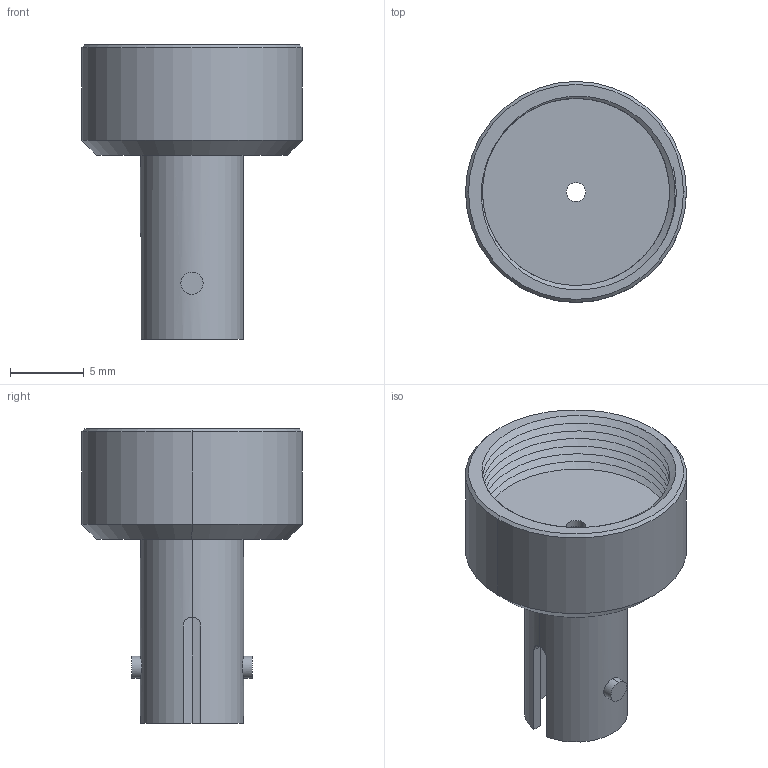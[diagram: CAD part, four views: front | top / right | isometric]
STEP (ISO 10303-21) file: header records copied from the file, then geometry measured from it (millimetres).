
FILE_DESCRIPTION (( 'STEP AP214' ), '1' );
FILE_NAME ('14179-E01.step', '2007-11-13T11:07:42', ( ' ' ), ( ' ' ), 'SwSTEP 2.0', 'SolidWorks 2007', '' );
FILE_SCHEMA (( 'AUTOMOTIVE_DESIGN' ));
Length unit declared in the file: millimetre
Products named in the file (1): 14179-E01
Bounding box: 15 x 15 x 20 mm (x, y, z)
Volume: 935.6 mm3; surface area: 1461.2 mm2
Topology: 1 solids, 1 shells, 33 faces, 72 edges, 46 vertices
Faces by surface type: cylinder 15, plane 10, cone 6, bspline 2
Entity records: 1888 total; most frequent: CARTESIAN_POINT 1143, DIRECTION 152, ORIENTED_EDGE 144, EDGE_CURVE 72, AXIS2_PLACEMENT_3D 62, VERTEX_POINT 46, EDGE_LOOP 40, FACE_OUTER_BOUND 33
